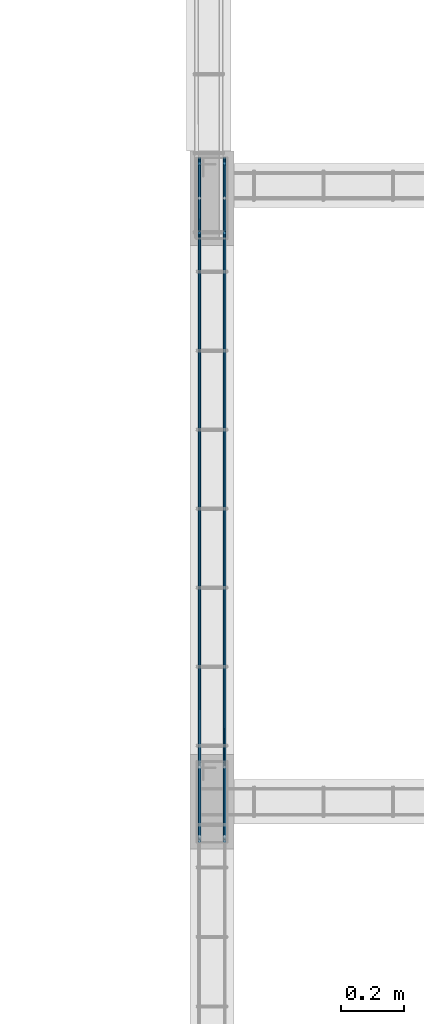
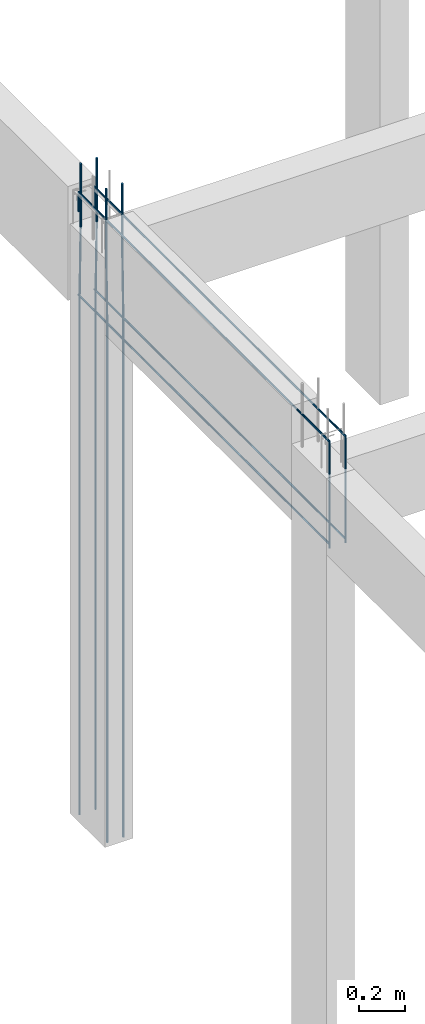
# One storey, part 50 of 236: 8 reinforcing bars.
"""IFC4 building model written with IfcOpenShell, lengths in centimetres."""

from ifc_helpers import new_model, entity, si_unit, derived_unit, frame, origin_with_axes, place, context, project, spatial, element, save


model = new_model("IFC4")

# Units and contexts
model_context = context("Model", 3, precision=1e-05, world=origin_with_axes(), identifier="Body")
ifc_project = project(units=[si_unit("LENGTHUNIT", "METRE", prefix="CENTI"), si_unit("VOLUMEUNIT", "CUBIC_METRE"), si_unit("AREAUNIT", "SQUARE_METRE"), si_unit("POWERUNIT", "WATT"), si_unit("LUMINOUSFLUXUNIT", "LUMEN"), si_unit("ELECTRICCURRENTUNIT", "AMPERE"), si_unit("PRESSUREUNIT", "PASCAL", prefix="KILO"), si_unit("MASSUNIT", "GRAM", prefix="KILO"), si_unit("PLANEANGLEUNIT", "RADIAN"), derived_unit("VOLUMETRICFLOWRATEUNIT", [(si_unit("LENGTHUNIT", "METRE"), 3), (si_unit("TIMEUNIT", "SECOND"), -1)])], contexts=[model_context])

# Site, building, storey
site_placement = place(None, frame((-4000.0, 0.0, 0.0), z_axis=(0.0, 0.0, 1.0), x_axis=(1.0, 0.0, 0.0)))
site = spatial("IfcSite", under=ifc_project, at=site_placement, Name="PADRÃO")
building_placement = place(site_placement, frame((0.0, 0.0, -14.0)))
building = spatial("IfcBuilding", under=site, at=building_placement, Name="CRECHE PRÉ-ESCOLA TIPO 2")
placement_1 = place(building_placement, origin_with_axes())
placement_2 = place(placement_1, frame((0.0, 0.0, 30.0), z_axis=(0.0, 0.0, 1.0), x_axis=(1.0, 0.0, 0.0)))
storey_placement = place(placement_2, frame((0.0, 0.0, 310.0), z_axis=(0.0, 0.0, 1.0), x_axis=(1.0, 0.0, 0.0)))
storey = spatial("IfcBuildingStorey", under=building, at=storey_placement, Name="TERREO", CompositionType="ELEMENT", Elevation=326.0)

# Reinforcing bars
for number, where, z_axis, x_axis, name in (
    (1, (2250.49, 1012.01, 33.3573001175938), (0.0, 0.0, 1.0), (1.0, 0.0, 0.0), "P121 - Longitudinal"),
    (2, (2258.49, 1012.01, 33.3573001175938), (0.0, 0.0, 1.0), (1.0, 0.0, 0.0), "P121 - Longitudinal"),
):
    element("IfcReinforcingBar", number, at=place(storey_placement, frame(where, z_axis=z_axis, x_axis=x_axis)), inside=storey, Name=name, BarLength=0.0, CrossSectionArea=7.853981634e-05, NominalDiameter=1.0, PredefinedType="MAIN", context=model_context, shape_type="AdvancedSweptSolid", body=[
        entity("IfcSweptDiskSolid", entity("IfcCompositeCurve", [entity("IfcCompositeCurveSegment", "CONTINUOUS", True, entity("IfcPolyline", [entity("IfcCartesianPoint", [0.0, -0.5, -343.357300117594]), entity("IfcCartesianPoint", [0.0, -0.5, -73.3573001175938])])), entity("IfcCompositeCurveSegment", "CONTINUOUS", True, entity("IfcPolyline", [entity("IfcCartesianPoint", [0.0, -0.5, -73.3573001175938]), entity("IfcCartesianPoint", [0.0, 0.5, -33.3573001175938])])), entity("IfcCompositeCurveSegment", "CONTINUOUS", True, entity("IfcPolyline", [entity("IfcCartesianPoint", [0.0, 0.5, -33.3573001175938]), entity("IfcCartesianPoint", [0.0, 0.5, 0.0])]))], False), 0.5),
    ])
for number, where, z_axis, x_axis, name in (
    (3, (2250.49, 1035.01, 33.3573001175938), (0.0, 0.0, 1.0), (1.0, 0.0, 0.0), "P121 - Longitudinal"),
    (4, (2258.49, 1035.01, 33.3573001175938), (0.0, 0.0, 1.0), (1.0, 0.0, 0.0), "P121 - Longitudinal"),
):
    element("IfcReinforcingBar", number, at=place(storey_placement, frame(where, z_axis=z_axis, x_axis=x_axis)), inside=storey, Name=name, BarLength=0.0, CrossSectionArea=7.853981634e-05, NominalDiameter=1.0, PredefinedType="MAIN", context=model_context, shape_type="AdvancedSweptSolid", body=[
        entity("IfcSweptDiskSolid", entity("IfcCompositeCurve", [entity("IfcCompositeCurveSegment", "CONTINUOUS", True, entity("IfcPolyline", [entity("IfcCartesianPoint", [0.0, 0.5, -343.357300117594]), entity("IfcCartesianPoint", [0.0, 0.5, -73.3573001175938])])), entity("IfcCompositeCurveSegment", "CONTINUOUS", True, entity("IfcPolyline", [entity("IfcCartesianPoint", [0.0, 0.5, -73.3573001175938]), entity("IfcCartesianPoint", [0.0, -0.5, -33.3573001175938])])), entity("IfcCompositeCurveSegment", "CONTINUOUS", True, entity("IfcPolyline", [entity("IfcCartesianPoint", [0.0, -0.5, -33.3573001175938]), entity("IfcCartesianPoint", [0.0, -0.5, 0.0])]))], False), 0.5),
    ])
for number, where, z_axis, x_axis, name in (
    (5, (2258.49, 928.012656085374, -10.2427448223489), (0.0, 0.0, 1.0), (1.0, 0.0, 0.0), "V288 - Longitudinal inferior"),
    (6, (2250.49, 928.012656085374, -10.2427448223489), (0.0, 0.0, 1.0), (1.0, 0.0, 0.0), "V288 - Longitudinal inferior"),
):
    element("IfcReinforcingBar", number, at=place(storey_placement, frame(where, z_axis=z_axis, x_axis=x_axis)), inside=storey, Name=name, BarLength=0.0, CrossSectionArea=7.853981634e-05, NominalDiameter=1.0, PredefinedType="MAIN", context=model_context, shape_type="AdvancedSweptSolid", body=[
        entity("IfcSweptDiskSolid", entity("IfcCompositeCurve", [entity("IfcCompositeCurveSegment", "CONTINUOUS", True, entity("IfcPolyline", [entity("IfcCartesianPoint", [0.0, -107.992656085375, 0.0]), entity("IfcCartesianPoint", [0.0, -107.992656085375, -26.7572551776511])])), entity("IfcCompositeCurveSegment", "CONTINUOUS", True, entity("IfcPolyline", [entity("IfcCartesianPoint", [0.0, -107.992656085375, -26.7572551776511]), entity("IfcCartesianPoint", [0.0, 108.497343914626, -26.7572551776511])]))], False), 0.5),
    ])
for number, where, z_axis, x_axis, name in (
    (7, (2250.49, 928.015, 17.5046878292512), (0.0, 0.0, 1.0), (1.0, 0.0, 0.0), "V288 - Longitudinal superior"),
    (8, (2258.49, 928.015, 17.5046878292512), (0.0, 0.0, 1.0), (1.0, 0.0, 0.0), "V288 - Longitudinal superior"),
):
    element("IfcReinforcingBar", number, at=place(storey_placement, frame(where, z_axis=z_axis, x_axis=x_axis)), inside=storey, Name=name, BarLength=0.0, CrossSectionArea=7.853981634e-05, NominalDiameter=1.0, PredefinedType="MAIN", context=model_context, shape_type="AdvancedSweptSolid", body=[
        entity("IfcSweptDiskSolid", entity("IfcCompositeCurve", [entity("IfcCompositeCurveSegment", "CONTINUOUS", True, entity("IfcPolyline", [entity("IfcCartesianPoint", [0.0, -107.995, -56.5046878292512]), entity("IfcCartesianPoint", [0.0, -107.995, -0.504687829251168])])), entity("IfcCompositeCurveSegment", "CONTINUOUS", True, entity("IfcPolyline", [entity("IfcCartesianPoint", [0.0, -107.995, -0.504687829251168]), entity("IfcCartesianPoint", [0.0, 107.995, -0.504687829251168])])), entity("IfcCompositeCurveSegment", "CONTINUOUS", True, entity("IfcPolyline", [entity("IfcCartesianPoint", [0.0, 107.995, -0.504687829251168]), entity("IfcCartesianPoint", [0.0, 107.995, -10.5046878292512])]))], False), 0.5),
    ])

save(model, "model.ifc")
